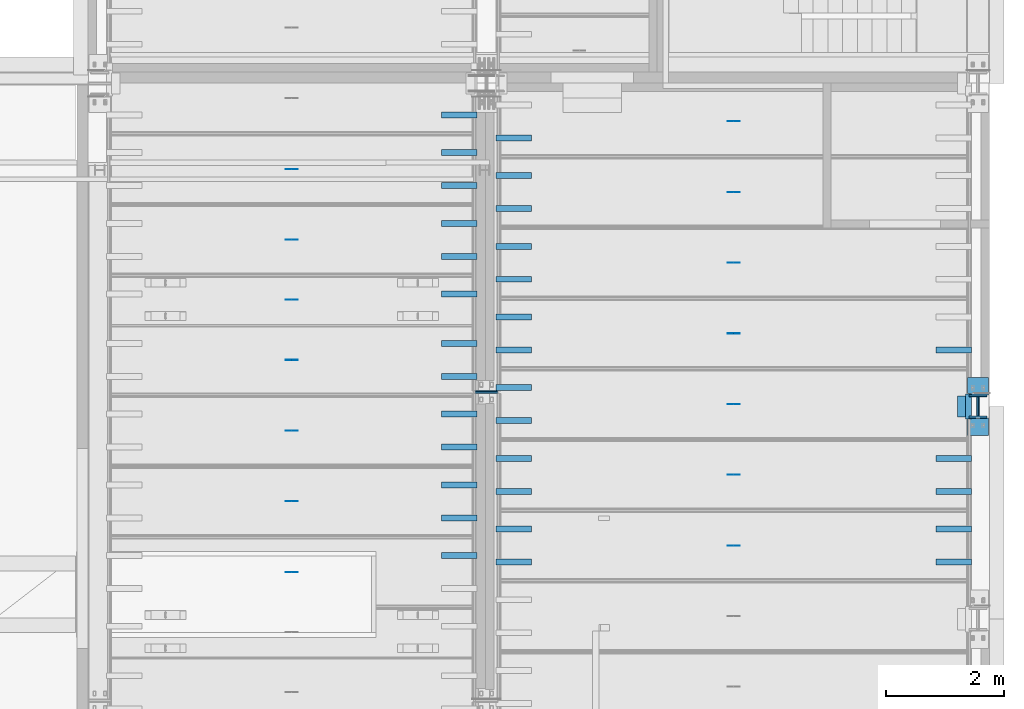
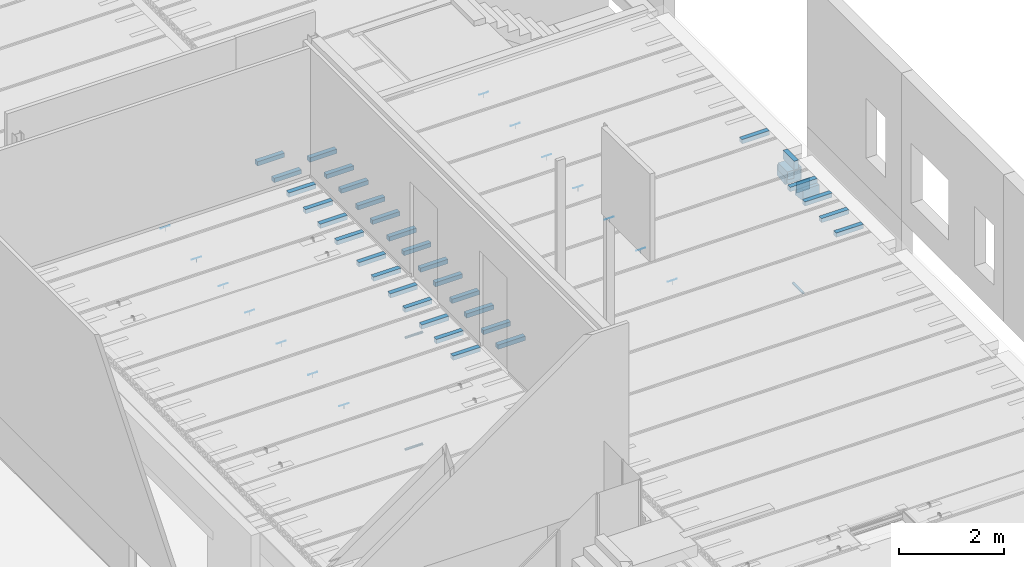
# One storey, part 21 of 230: 68 beams.
"""IFC4X3_ADD2 building model written with IfcOpenShell, lengths in millimetres."""

from ifc_helpers import new_model, entity, si_unit, direction, frame, frame_2d, origin_with_axes, place, context, subcontext, project, spatial, rectangle, hollow_circle, extrude, material, element, save


model = new_model("IFC4X3_ADD2")

# Units and contexts
model_context = context("Model", 3, precision=1e-05, world=origin_with_axes(), true_north=direction((0.0, 1.0)))
body_context = subcontext(model_context, "Body", "Model", "MODEL_VIEW")
ifc_project = project(units=[si_unit("LENGTHUNIT", "METRE", prefix="MILLI"), si_unit("AREAUNIT", "SQUARE_METRE"), si_unit("VOLUMEUNIT", "CUBIC_METRE"), si_unit("PLANEANGLEUNIT", "RADIAN"), si_unit("TIMEUNIT", "SECOND"), si_unit("MASSUNIT", "GRAM")], contexts=[model_context])

# Site, building, storey
site_placement = place(None, origin_with_axes())
site = spatial("IfcSite", under=ifc_project, at=site_placement, Name="Site", CompositionType="ELEMENT")
building_placement = place(site_placement, origin_with_axes())
building = spatial("IfcBuilding", under=site, at=building_placement, Name="IFC Building Story")
storey_placement = place(building_placement, origin_with_axes())
storey = spatial("IfcBuildingStorey", under=building, at=storey_placement, Name="ETAGE 00 (0)", Elevation=0.0)

# Beams
ifc_material_1 = material(Name="STEEL/Accessory_C50/60 64192")
for number, where, z_axis, x_axis, name in (
    (1, (48131.1886362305, 11975.0006109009, 3540.0), (1.0, 0.0, 0.0), (0.0, 0.0, 1.0), "BEK1"),
    (2, (48491.18863623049, 12665.0006109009, 3540.0), (-1.0, 0.0, 0.0), (0.0, 0.0, 1.0), "BEK1"),
):
    element("IfcBeam", number, at=place(storey_placement, frame(where, z_axis=z_axis, x_axis=x_axis)), inside=storey, material=ifc_material_1, Name=name, ObjectType="CORBEL300-300-260", context=body_context, shape_type="SweptSolid", body=[
        extrude(entity("IfcTrapeziumProfileDef", "AREA", None, entity("IfcAxis2Placement2D", entity("IfcCartesianPoint", [0.0, 5.95523630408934e-12]), entity("IfcDirection", [1.0, 0.0])), 300.0, 260.0, 300.0, 40.0), origin_with_axes(), (0.0, 0.0, 1.0), 359.9999999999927),
    ])
beam_1_placement = place(storey_placement, frame((48041.1886362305, 12500.0006109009, 3875.0), z_axis=(0.0, -1.0, 0.0), x_axis=(0.0, 0.0, 1.0)))
element("IfcBeam", 3, at=beam_1_placement, inside=storey, material=ifc_material_1, Name="BEK1", ObjectType="CORBEL200-150-180", context=body_context, shape_type="SweptSolid", body=[
    extrude(entity("IfcTrapeziumProfileDef", "AREA", None, entity("IfcAxis2Placement2D", entity("IfcCartesianPoint", [0.0, 5.95523630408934e-12]), entity("IfcDirection", [1.0, 0.0])), 200.0, 180.0, 150.0, 19.9999999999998), origin_with_axes(), (0.0, 0.0, 1.0), 360.0),
])
ifc_material_2 = material(Name="STEEL/Accessory_invisible")
beam_2_placement = place(storey_placement, frame((40731.189, 16880.0, 4150.0), z_axis=(-1.0, 0.0, 0.0), x_axis=(0.0, 1.0, 0.0)))
element("IfcBeam", 4, at=beam_2_placement, inside=storey, material=ifc_material_2, Name="ES7", ObjectType="100*100", context=body_context, shape_type="SweptSolid", body=[
    extrude(rectangle(XDim=100.0, YDim=99.99999999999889, at=frame_2d((0.0, 5.95523630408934e-12), x_axis=(1.0, 0.0))), origin_with_axes(), (0.0, 0.0, 1.0), 600.0),
])
ifc_material_3 = material(Name="STEEL/Accessory_invisible 261")
beam_3_placement = place(storey_placement, frame((44164.189, 17160.0, 4049.9999909), z_axis=(-1.0, 0.0, 0.0), x_axis=(0.0, 0.0, -1.0)))
element("IfcBeam", 5, at=beam_3_placement, inside=storey, material=ifc_material_3, Name="ES6", ObjectType="1*1 2", context=body_context, shape_type="SweptSolid", body=[
    extrude(rectangle(XDim=100.0, YDim=0.9999999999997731, at=frame_2d((0.0, 5.95523630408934e-12), x_axis=(1.0, 0.0))), origin_with_axes(), (0.0, 0.0, 1.0), 1.0),
])
beam_4_placement = place(storey_placement, frame((44263.689, 17160.0, 4100.0), z_axis=(-1.0, 0.0, 0.0), x_axis=(0.0, 1.0, 0.0)))
element("IfcBeam", 6, at=beam_4_placement, inside=storey, material=ifc_material_3, Name="ES31", ObjectType="1*1 3", context=body_context, shape_type="SweptSolid", body=[
    extrude(rectangle(XDim=0.9999999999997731, YDim=0.9999999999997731, at=frame_2d((0.0, 5.95523630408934e-12), x_axis=(1.0, 0.0))), origin_with_axes(), (0.0, 0.0, 1.0), 199.9999999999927),
])
for number, where, z_axis, x_axis, name in (
    (7, (40731.189, 16240.0, 4150.0), (-1.0, 0.0, 0.0), (0.0, 1.0, 0.0), "ES7"),
    (8, (40731.189, 15680.0, 4150.0), (-1.0, 0.0, 0.0), (0.0, 1.0, 0.0), "ES7"),
):
    element("IfcBeam", number, at=place(storey_placement, frame(where, z_axis=z_axis, x_axis=x_axis)), inside=storey, material=ifc_material_2, Name=name, ObjectType="100*100", context=body_context, shape_type="SweptSolid", body=[
        extrude(rectangle(XDim=100.0, YDim=99.99999999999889, at=frame_2d((0.0, 5.95523630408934e-12), x_axis=(1.0, 0.0))), origin_with_axes(), (0.0, 0.0, 1.0), 600.0),
    ])
beam_5_placement = place(storey_placement, frame((44164.189, 15960.0, 4049.9999909), z_axis=(-1.0, 0.0, 0.0), x_axis=(0.0, 0.0, -1.0)))
element("IfcBeam", 9, at=beam_5_placement, inside=storey, material=ifc_material_3, Name="ES6", ObjectType="1*1 2", context=body_context, shape_type="SweptSolid", body=[
    extrude(rectangle(XDim=100.0, YDim=0.9999999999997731, at=frame_2d((0.0, 5.95523630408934e-12), x_axis=(1.0, 0.0))), origin_with_axes(), (0.0, 0.0, 1.0), 1.0),
])
beam_6_placement = place(storey_placement, frame((44263.689, 15960.0, 4100.0), z_axis=(-1.0, 0.0, 0.0), x_axis=(0.0, 1.0, 0.0)))
element("IfcBeam", 10, at=beam_6_placement, inside=storey, material=ifc_material_3, Name="ES31", ObjectType="1*1 3", context=body_context, shape_type="SweptSolid", body=[
    extrude(rectangle(XDim=0.9999999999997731, YDim=0.9999999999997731, at=frame_2d((0.0, 5.95523630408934e-12), x_axis=(1.0, 0.0))), origin_with_axes(), (0.0, 0.0, 1.0), 199.9999999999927),
])
for number, where, z_axis, x_axis, name in (
    (11, (40731.189, 15040.0, 4150.0), (-1.0, 0.0, 0.0), (0.0, 1.0, 0.0), "ES7"),
    (12, (40731.189, 14480.0, 4150.0), (-1.0, 0.0, 0.0), (0.0, 1.0, 0.0), "ES7"),
):
    element("IfcBeam", number, at=place(storey_placement, frame(where, z_axis=z_axis, x_axis=x_axis)), inside=storey, material=ifc_material_2, Name=name, ObjectType="100*100", context=body_context, shape_type="SweptSolid", body=[
        extrude(rectangle(XDim=100.0, YDim=99.99999999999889, at=frame_2d((0.0, 5.95523630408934e-12), x_axis=(1.0, 0.0))), origin_with_axes(), (0.0, 0.0, 1.0), 600.0),
    ])
beam_7_placement = place(storey_placement, frame((44164.189, 14760.0, 4049.9999909), z_axis=(-1.0, 0.0, 0.0), x_axis=(0.0, 0.0, -1.0)))
element("IfcBeam", 13, at=beam_7_placement, inside=storey, material=ifc_material_3, Name="ES6", ObjectType="1*1 2", context=body_context, shape_type="SweptSolid", body=[
    extrude(rectangle(XDim=100.0, YDim=0.9999999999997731, at=frame_2d((0.0, 5.95523630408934e-12), x_axis=(1.0, 0.0))), origin_with_axes(), (0.0, 0.0, 1.0), 1.0),
])
beam_8_placement = place(storey_placement, frame((44263.689, 14760.0, 4100.0), z_axis=(-1.0, 0.0, 0.0), x_axis=(0.0, 1.0, 0.0)))
element("IfcBeam", 14, at=beam_8_placement, inside=storey, material=ifc_material_3, Name="ES31", ObjectType="1*1 3", context=body_context, shape_type="SweptSolid", body=[
    extrude(rectangle(XDim=0.9999999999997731, YDim=0.9999999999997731, at=frame_2d((0.0, 5.95523630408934e-12), x_axis=(1.0, 0.0))), origin_with_axes(), (0.0, 0.0, 1.0), 199.9999999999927),
])
for number, where, z_axis, x_axis, name in (
    (15, (40731.189, 13840.0, 4150.0), (-1.0, 0.0, 0.0), (0.0, 1.0, 0.0), "ES7"),
    (16, (40731.189, 13280.0, 4150.0), (-1.0, 0.0, 0.0), (0.0, 1.0, 0.0), "ES7"),
    (17, (48196.18900000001, 13280.0, 4150.0), (-1.0, 0.0, 0.0), (0.0, -1.0, 0.0), "ES7"),
):
    element("IfcBeam", number, at=place(storey_placement, frame(where, z_axis=z_axis, x_axis=x_axis)), inside=storey, material=ifc_material_2, Name=name, ObjectType="100*100", context=body_context, shape_type="SweptSolid", body=[
        extrude(rectangle(XDim=100.0, YDim=99.99999999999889, at=frame_2d((0.0, 5.95523630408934e-12), x_axis=(1.0, 0.0))), origin_with_axes(), (0.0, 0.0, 1.0), 600.0),
    ])
beam_9_placement = place(storey_placement, frame((44164.189, 13560.0, 4049.9999909), z_axis=(-1.0, 0.0, 0.0), x_axis=(0.0, 0.0, -1.0)))
element("IfcBeam", 18, at=beam_9_placement, inside=storey, material=ifc_material_3, Name="ES6", ObjectType="1*1 2", context=body_context, shape_type="SweptSolid", body=[
    extrude(rectangle(XDim=100.0, YDim=0.9999999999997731, at=frame_2d((0.0, 5.95523630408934e-12), x_axis=(1.0, 0.0))), origin_with_axes(), (0.0, 0.0, 1.0), 1.0),
])
beam_10_placement = place(storey_placement, frame((44263.689, 13560.0, 4100.0), z_axis=(-1.0, 0.0, 0.0), x_axis=(0.0, 1.0, 0.0)))
element("IfcBeam", 19, at=beam_10_placement, inside=storey, material=ifc_material_3, Name="ES31", ObjectType="1*1 3", context=body_context, shape_type="SweptSolid", body=[
    extrude(rectangle(XDim=0.9999999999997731, YDim=0.9999999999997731, at=frame_2d((0.0, 5.95523630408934e-12), x_axis=(1.0, 0.0))), origin_with_axes(), (0.0, 0.0, 1.0), 199.9999999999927),
])
for number, where, z_axis, x_axis, name in (
    (20, (40731.189, 11440.0, 4150.0), (-1.0, 0.0, 0.0), (0.0, 1.0, 0.0), "ES7"),
    (21, (40731.189, 10880.0, 4150.0), (-1.0, 0.0, 0.0), (0.0, 1.0, 0.0), "ES7"),
    (22, (48196.18900000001, 11440.0, 4150.0), (-1.0, 0.0, 0.0), (0.0, -1.0, 0.0), "ES7"),
    (23, (48196.18900000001, 10880.0, 4150.0), (-1.0, 0.0, 0.0), (0.0, -1.0, 0.0), "ES7"),
):
    element("IfcBeam", number, at=place(storey_placement, frame(where, z_axis=z_axis, x_axis=x_axis)), inside=storey, material=ifc_material_2, Name=name, ObjectType="100*100", context=body_context, shape_type="SweptSolid", body=[
        extrude(rectangle(XDim=100.0, YDim=99.99999999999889, at=frame_2d((0.0, 5.95523630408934e-12), x_axis=(1.0, 0.0))), origin_with_axes(), (0.0, 0.0, 1.0), 600.0),
    ])
beam_11_placement = place(storey_placement, frame((44164.189, 11160.0, 4049.9999909), z_axis=(-1.0, 0.0, 0.0), x_axis=(0.0, 0.0, -1.0)))
element("IfcBeam", 24, at=beam_11_placement, inside=storey, material=ifc_material_3, Name="ES6", ObjectType="1*1 2", context=body_context, shape_type="SweptSolid", body=[
    extrude(rectangle(XDim=100.0, YDim=0.9999999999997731, at=frame_2d((0.0, 5.95523630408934e-12), x_axis=(1.0, 0.0))), origin_with_axes(), (0.0, 0.0, 1.0), 1.0),
])
beam_12_placement = place(storey_placement, frame((44263.689, 11160.0, 4100.0), z_axis=(-1.0, 0.0, 0.0), x_axis=(0.0, 1.0, 0.0)))
element("IfcBeam", 25, at=beam_12_placement, inside=storey, material=ifc_material_3, Name="ES31", ObjectType="1*1 3", context=body_context, shape_type="SweptSolid", body=[
    extrude(rectangle(XDim=0.9999999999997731, YDim=0.9999999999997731, at=frame_2d((0.0, 5.95523630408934e-12), x_axis=(1.0, 0.0))), origin_with_axes(), (0.0, 0.0, 1.0), 199.9999999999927),
])
for number, where, z_axis, x_axis, name in (
    (26, (40731.189, 10240.0, 4150.0), (-1.0, 0.0, 0.0), (0.0, 1.0, 0.0), "ES7"),
    (27, (40731.189, 9680.0, 4150.0), (-1.0, 0.0, 0.0), (0.0, 1.0, 0.0), "ES7"),
    (28, (48196.18900000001, 10240.0, 4150.0), (-1.0, 0.0, 0.0), (0.0, -1.0, 0.0), "ES7"),
    (29, (48196.18900000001, 9680.0, 4150.0), (-1.0, 0.0, 0.0), (0.0, -1.0, 0.0), "ES7"),
):
    element("IfcBeam", number, at=place(storey_placement, frame(where, z_axis=z_axis, x_axis=x_axis)), inside=storey, material=ifc_material_2, Name=name, ObjectType="100*100", context=body_context, shape_type="SweptSolid", body=[
        extrude(rectangle(XDim=100.0, YDim=99.99999999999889, at=frame_2d((0.0, 5.95523630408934e-12), x_axis=(1.0, 0.0))), origin_with_axes(), (0.0, 0.0, 1.0), 600.0),
    ])
beam_13_placement = place(storey_placement, frame((44164.189, 9960.0, 4049.9999909), z_axis=(-1.0, 0.0, 0.0), x_axis=(0.0, 0.0, -1.0)))
element("IfcBeam", 30, at=beam_13_placement, inside=storey, material=ifc_material_3, Name="ES6", ObjectType="1*1 2", context=body_context, shape_type="SweptSolid", body=[
    extrude(rectangle(XDim=100.0, YDim=0.9999999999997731, at=frame_2d((0.0, 5.95523630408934e-12), x_axis=(1.0, 0.0))), origin_with_axes(), (0.0, 0.0, 1.0), 1.0),
])
beam_14_placement = place(storey_placement, frame((44263.689, 9960.0, 4100.0), z_axis=(-1.0, 0.0, 0.0), x_axis=(0.0, 1.0, 0.0)))
element("IfcBeam", 31, at=beam_14_placement, inside=storey, material=ifc_material_3, Name="ES31", ObjectType="1*1 3", context=body_context, shape_type="SweptSolid", body=[
    extrude(rectangle(XDim=0.9999999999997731, YDim=0.9999999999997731, at=frame_2d((0.0, 5.95523630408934e-12), x_axis=(1.0, 0.0))), origin_with_axes(), (0.0, 0.0, 1.0), 199.9999999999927),
])
for number, where, z_axis, x_axis, name in (
    (32, (40731.189, 12640.0, 4150.0), (-1.0, 0.0, 0.0), (0.0, 1.0, 0.0), "ES7"),
    (33, (40731.189, 12080.0, 4150.0), (-1.0, 0.0, 0.0), (0.0, 1.0, 0.0), "ES7"),
):
    element("IfcBeam", number, at=place(storey_placement, frame(where, z_axis=z_axis, x_axis=x_axis)), inside=storey, material=ifc_material_2, Name=name, ObjectType="100*100", context=body_context, shape_type="SweptSolid", body=[
        extrude(rectangle(XDim=100.0, YDim=99.99999999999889, at=frame_2d((0.0, 5.95523630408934e-12), x_axis=(1.0, 0.0))), origin_with_axes(), (0.0, 0.0, 1.0), 600.0),
    ])
beam_15_placement = place(storey_placement, frame((44164.189, 12360.0, 4049.9999909), z_axis=(-1.0, 0.0, 0.0), x_axis=(0.0, 0.0, -1.0)))
element("IfcBeam", 34, at=beam_15_placement, inside=storey, material=ifc_material_3, Name="ES6", ObjectType="1*1 2", context=body_context, shape_type="SweptSolid", body=[
    extrude(rectangle(XDim=100.0, YDim=0.9999999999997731, at=frame_2d((0.0, 5.95523630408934e-12), x_axis=(1.0, 0.0))), origin_with_axes(), (0.0, 0.0, 1.0), 1.0),
])
beam_16_placement = place(storey_placement, frame((44263.689, 12360.0, 4100.0), z_axis=(-1.0, 0.0, 0.0), x_axis=(0.0, 1.0, 0.0)))
element("IfcBeam", 35, at=beam_16_placement, inside=storey, material=ifc_material_3, Name="ES31", ObjectType="1*1 3", context=body_context, shape_type="SweptSolid", body=[
    extrude(rectangle(XDim=0.9999999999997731, YDim=0.9999999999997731, at=frame_2d((0.0, 5.95523630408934e-12), x_axis=(1.0, 0.0))), origin_with_axes(), (0.0, 0.0, 1.0), 199.9999999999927),
])
beam_17_placement = place(storey_placement, frame((48096.18900000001, 12320.0, 4100.0), z_axis=(1.0, 0.0, 0.0), x_axis=(0.0, 0.0, -1.0)))
element("IfcBeam", 36, at=beam_17_placement, inside=storey, material=ifc_material_2, Name="ES32", ObjectType="200*430", context=body_context, shape_type="SweptSolid", body=[
    extrude(rectangle(XDim=200.0, YDim=430.000000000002, at=frame_2d((0.0, 5.95523630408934e-12), x_axis=(1.0, 0.0))), origin_with_axes(), (0.0, 0.0, 1.0), 100.0),
])
ifc_material_4 = material(Name="STEEL/Accessory_PVC")
for number, where, z_axis, x_axis, name in (
    (37, (39774.1889999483, 12564.838, 110.0), (1.0, 0.0, 0.0), (0.0, 0.0, -1.0), "PS13"),
    (38, (39774.1890000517, 12564.838, 2720.0), (1.0, 0.0, 0.0), (0.0, 0.0, -1.0), "PS13"),
):
    element("IfcBeam", number, at=place(storey_placement, frame(where, z_axis=z_axis, x_axis=x_axis)), inside=storey, material=ifc_material_4, Name=name, ObjectType="O56*3", context=body_context, shape_type="SweptSolid", body=[
        extrude(hollow_circle(Radius=28.0, WallThickness=3.0, at=frame_2d((0.0, 5.95523630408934e-12), x_axis=(1.0, 0.0))), origin_with_axes(), (0.0, 0.0, 1.0), 384.0),
    ])
for number, where, z_axis, x_axis, name in (
    (39, (39801.1890000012, 17270.0009155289, 4150.0), (-1.0, 0.0, 0.0), (0.0, -1.0, 0.0), "ES7"),
    (40, (39801.189, 16630.0009155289, 4150.0), (-1.0, 0.0, 0.0), (0.0, -1.0, 0.0), "ES7"),
    (41, (39801.189, 16070.0009155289, 4150.0), (-1.0, 0.0, 0.0), (0.0, -1.0, 0.0), "ES7"),
):
    element("IfcBeam", number, at=place(storey_placement, frame(where, z_axis=z_axis, x_axis=x_axis)), inside=storey, material=ifc_material_2, Name=name, ObjectType="100*100", context=body_context, shape_type="SweptSolid", body=[
        extrude(rectangle(XDim=100.0, YDim=99.99999999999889, at=frame_2d((0.0, 5.95523630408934e-12), x_axis=(1.0, 0.0))), origin_with_axes(), (0.0, 0.0, 1.0), 600.0),
    ])
beam_18_placement = place(storey_placement, frame((36659.189, 16350.0009155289, 4049.9999909), z_axis=(-1.0, 0.0, 0.0), x_axis=(0.0, 0.0, -1.0)))
element("IfcBeam", 42, at=beam_18_placement, inside=storey, material=ifc_material_3, Name="ES6", ObjectType="1*1 2", context=body_context, shape_type="SweptSolid", body=[
    extrude(rectangle(XDim=100.0, YDim=0.9999999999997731, at=frame_2d((0.0, 5.95523630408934e-12), x_axis=(1.0, 0.0))), origin_with_axes(), (0.0, 0.0, 1.0), 1.0),
])
beam_19_placement = place(storey_placement, frame((36758.689, 16350.0009155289, 4100.0), z_axis=(-1.0, 0.0, 0.0), x_axis=(0.0, 1.0, 0.0)))
element("IfcBeam", 43, at=beam_19_placement, inside=storey, material=ifc_material_3, Name="ES31", ObjectType="1*1 3", context=body_context, shape_type="SweptSolid", body=[
    extrude(rectangle(XDim=0.9999999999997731, YDim=0.9999999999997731, at=frame_2d((0.0, 5.95523630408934e-12), x_axis=(1.0, 0.0))), origin_with_axes(), (0.0, 0.0, 1.0), 200.0),
])
for number, where, z_axis, x_axis, name in (
    (44, (39801.189, 15430.0009155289, 4150.0), (-1.0, 0.0, 0.0), (0.0, -1.0, 0.0), "ES7"),
    (45, (39801.189, 14870.0009155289, 4150.0), (-1.0, 0.0, 0.0), (0.0, -1.0, 0.0), "ES7"),
):
    element("IfcBeam", number, at=place(storey_placement, frame(where, z_axis=z_axis, x_axis=x_axis)), inside=storey, material=ifc_material_2, Name=name, ObjectType="100*100", context=body_context, shape_type="SweptSolid", body=[
        extrude(rectangle(XDim=100.0, YDim=99.99999999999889, at=frame_2d((0.0, 5.95523630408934e-12), x_axis=(1.0, 0.0))), origin_with_axes(), (0.0, 0.0, 1.0), 600.0),
    ])
beam_20_placement = place(storey_placement, frame((36659.189, 15150.0009155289, 4049.9999909), z_axis=(-1.0, 0.0, 0.0), x_axis=(0.0, 0.0, -1.0)))
element("IfcBeam", 46, at=beam_20_placement, inside=storey, material=ifc_material_3, Name="ES6", ObjectType="1*1 2", context=body_context, shape_type="SweptSolid", body=[
    extrude(rectangle(XDim=100.0, YDim=0.9999999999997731, at=frame_2d((0.0, 5.95523630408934e-12), x_axis=(1.0, 0.0))), origin_with_axes(), (0.0, 0.0, 1.0), 1.0),
])
beam_21_placement = place(storey_placement, frame((36758.689, 15150.0009155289, 4100.0), z_axis=(-1.0, 0.0, 0.0), x_axis=(0.0, 1.0, 0.0)))
element("IfcBeam", 47, at=beam_21_placement, inside=storey, material=ifc_material_3, Name="ES31", ObjectType="1*1 3", context=body_context, shape_type="SweptSolid", body=[
    extrude(rectangle(XDim=0.9999999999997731, YDim=0.9999999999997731, at=frame_2d((0.0, 5.95523630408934e-12), x_axis=(1.0, 0.0))), origin_with_axes(), (0.0, 0.0, 1.0), 200.0),
])
for number, where, z_axis, x_axis, name in (
    (48, (39801.189, 13390.0009155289, 4150.0), (-1.0, 0.0, 0.0), (0.0, -1.0, 0.0), "ES7"),
    (49, (39801.189, 12830.0009155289, 4150.0), (-1.0, 0.0, 0.0), (0.0, -1.0, 0.0), "ES7"),
):
    element("IfcBeam", number, at=place(storey_placement, frame(where, z_axis=z_axis, x_axis=x_axis)), inside=storey, material=ifc_material_2, Name=name, ObjectType="100*100", context=body_context, shape_type="SweptSolid", body=[
        extrude(rectangle(XDim=100.0, YDim=99.99999999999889, at=frame_2d((0.0, 5.95523630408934e-12), x_axis=(1.0, 0.0))), origin_with_axes(), (0.0, 0.0, 1.0), 600.0),
    ])
beam_22_placement = place(storey_placement, frame((36659.189, 13110.0009155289, 4049.9999909), z_axis=(-1.0, 0.0, 0.0), x_axis=(0.0, 0.0, -1.0)))
element("IfcBeam", 50, at=beam_22_placement, inside=storey, material=ifc_material_3, Name="ES6", ObjectType="1*1 2", context=body_context, shape_type="SweptSolid", body=[
    extrude(rectangle(XDim=100.0, YDim=0.9999999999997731, at=frame_2d((0.0, 5.95523630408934e-12), x_axis=(1.0, 0.0))), origin_with_axes(), (0.0, 0.0, 1.0), 1.0),
])
beam_23_placement = place(storey_placement, frame((36758.689, 13110.0009155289, 4100.0), z_axis=(-1.0, 0.0, 0.0), x_axis=(0.0, 1.0, 0.0)))
element("IfcBeam", 51, at=beam_23_placement, inside=storey, material=ifc_material_3, Name="ES31", ObjectType="1*1 3", context=body_context, shape_type="SweptSolid", body=[
    extrude(rectangle(XDim=0.9999999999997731, YDim=0.9999999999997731, at=frame_2d((0.0, 5.95523630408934e-12), x_axis=(1.0, 0.0))), origin_with_axes(), (0.0, 0.0, 1.0), 200.0),
])
for number, where, z_axis, x_axis, name in (
    (52, (39801.189, 12190.0009155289, 4150.0), (-1.0, 0.0, 0.0), (0.0, -1.0, 0.0), "ES7"),
    (53, (39801.189, 11630.0009155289, 4150.0), (-1.0, 0.0, 0.0), (0.0, -1.0, 0.0), "ES7"),
):
    element("IfcBeam", number, at=place(storey_placement, frame(where, z_axis=z_axis, x_axis=x_axis)), inside=storey, material=ifc_material_2, Name=name, ObjectType="100*100", context=body_context, shape_type="SweptSolid", body=[
        extrude(rectangle(XDim=100.0, YDim=99.99999999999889, at=frame_2d((0.0, 5.95523630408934e-12), x_axis=(1.0, 0.0))), origin_with_axes(), (0.0, 0.0, 1.0), 600.0),
    ])
beam_24_placement = place(storey_placement, frame((36659.189, 11910.0009155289, 4049.9999909), z_axis=(-1.0, 0.0, 0.0), x_axis=(0.0, 0.0, -1.0)))
element("IfcBeam", 54, at=beam_24_placement, inside=storey, material=ifc_material_3, Name="ES6", ObjectType="1*1 2", context=body_context, shape_type="SweptSolid", body=[
    extrude(rectangle(XDim=100.0, YDim=0.9999999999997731, at=frame_2d((0.0, 5.95523630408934e-12), x_axis=(1.0, 0.0))), origin_with_axes(), (0.0, 0.0, 1.0), 1.0),
])
beam_25_placement = place(storey_placement, frame((36758.689, 11910.0009155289, 4100.0), z_axis=(-1.0, 0.0, 0.0), x_axis=(0.0, 1.0, 0.0)))
element("IfcBeam", 55, at=beam_25_placement, inside=storey, material=ifc_material_3, Name="ES31", ObjectType="1*1 3", context=body_context, shape_type="SweptSolid", body=[
    extrude(rectangle(XDim=0.9999999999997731, YDim=0.9999999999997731, at=frame_2d((0.0, 5.95523630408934e-12), x_axis=(1.0, 0.0))), origin_with_axes(), (0.0, 0.0, 1.0), 200.0),
])
for number, where, z_axis, x_axis, name in (
    (56, (39801.189, 10990.0009155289, 4150.0), (-1.0, 0.0, 0.0), (0.0, -1.0, 0.0), "ES7"),
    (57, (39801.189, 10430.0009155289, 4150.0), (-1.0, 0.0, 0.0), (0.0, -1.0, 0.0), "ES7"),
):
    element("IfcBeam", number, at=place(storey_placement, frame(where, z_axis=z_axis, x_axis=x_axis)), inside=storey, material=ifc_material_2, Name=name, ObjectType="100*100", context=body_context, shape_type="SweptSolid", body=[
        extrude(rectangle(XDim=100.0, YDim=99.99999999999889, at=frame_2d((0.0, 5.95523630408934e-12), x_axis=(1.0, 0.0))), origin_with_axes(), (0.0, 0.0, 1.0), 600.0),
    ])
beam_26_placement = place(storey_placement, frame((36659.189, 10710.0009155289, 4049.9999909), z_axis=(-1.0, 0.0, 0.0), x_axis=(0.0, 0.0, -1.0)))
element("IfcBeam", 58, at=beam_26_placement, inside=storey, material=ifc_material_3, Name="ES6", ObjectType="1*1 2", context=body_context, shape_type="SweptSolid", body=[
    extrude(rectangle(XDim=100.0, YDim=0.9999999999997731, at=frame_2d((0.0, 5.95523630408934e-12), x_axis=(1.0, 0.0))), origin_with_axes(), (0.0, 0.0, 1.0), 1.0),
])
beam_27_placement = place(storey_placement, frame((36758.689, 10710.0009155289, 4100.0), z_axis=(-1.0, 0.0, 0.0), x_axis=(0.0, 1.0, 0.0)))
element("IfcBeam", 59, at=beam_27_placement, inside=storey, material=ifc_material_3, Name="ES31", ObjectType="1*1 3", context=body_context, shape_type="SweptSolid", body=[
    extrude(rectangle(XDim=0.9999999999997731, YDim=0.9999999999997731, at=frame_2d((0.0, 5.95523630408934e-12), x_axis=(1.0, 0.0))), origin_with_axes(), (0.0, 0.0, 1.0), 200.0),
])
beam_28_placement = place(storey_placement, frame((39801.189, 9790.000915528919, 4150.0), z_axis=(-1.0, 0.0, 0.0), x_axis=(0.0, -1.0, 0.0)))
element("IfcBeam", 60, at=beam_28_placement, inside=storey, material=ifc_material_2, Name="ES7", ObjectType="100*100", context=body_context, shape_type="SweptSolid", body=[
    extrude(rectangle(XDim=100.0, YDim=99.99999999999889, at=frame_2d((0.0, 5.95523630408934e-12), x_axis=(1.0, 0.0))), origin_with_axes(), (0.0, 0.0, 1.0), 600.0),
])
beam_29_placement = place(storey_placement, frame((36659.189, 9510.000915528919, 4049.9999909), z_axis=(-1.0, 0.0, 0.0), x_axis=(0.0, 0.0, -1.0)))
element("IfcBeam", 61, at=beam_29_placement, inside=storey, material=ifc_material_3, Name="ES6", ObjectType="1*1 2", context=body_context, shape_type="SweptSolid", body=[
    extrude(rectangle(XDim=100.0, YDim=0.9999999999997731, at=frame_2d((0.0, 5.95523630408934e-12), x_axis=(1.0, 0.0))), origin_with_axes(), (0.0, 0.0, 1.0), 1.0),
])
beam_30_placement = place(storey_placement, frame((36758.689, 9510.000915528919, 4100.0), z_axis=(-1.0, 0.0, 0.0), x_axis=(0.0, 1.0, 0.0)))
element("IfcBeam", 62, at=beam_30_placement, inside=storey, material=ifc_material_3, Name="ES31", ObjectType="1*1 3", context=body_context, shape_type="SweptSolid", body=[
    extrude(rectangle(XDim=0.9999999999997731, YDim=0.9999999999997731, at=frame_2d((0.0, 5.95523630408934e-12), x_axis=(1.0, 0.0))), origin_with_axes(), (0.0, 0.0, 1.0), 200.0),
])
beam_31_placement = place(storey_placement, frame((39801.189, 14230.0008970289, 4150.0), z_axis=(-1.0, 0.0, 0.0), x_axis=(0.0, -1.0, 0.0)))
element("IfcBeam", 63, at=beam_31_placement, inside=storey, material=ifc_material_2, Name="ES7", ObjectType="100*100", context=body_context, shape_type="SweptSolid", body=[
    extrude(rectangle(XDim=100.0, YDim=99.99999999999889, at=frame_2d((0.0, 5.95523630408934e-12), x_axis=(1.0, 0.0))), origin_with_axes(), (0.0, 0.0, 1.0), 600.0),
])
beam_32_placement = place(storey_placement, frame((36659.189, 14130.0009062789, 4049.9999909), z_axis=(-1.0, 0.0, 0.0), x_axis=(0.0, 0.0, -1.0)))
element("IfcBeam", 64, at=beam_32_placement, inside=storey, material=ifc_material_3, Name="ES6", ObjectType="1*1 2", context=body_context, shape_type="SweptSolid", body=[
    extrude(rectangle(XDim=100.0, YDim=0.9999999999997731, at=frame_2d((0.0, 5.95523630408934e-12), x_axis=(1.0, 0.0))), origin_with_axes(), (0.0, 0.0, 1.0), 1.0),
])
beam_33_placement = place(storey_placement, frame((36758.689, 14130.0009062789, 4100.0), z_axis=(-1.0, 0.0, 0.0), x_axis=(0.0, 1.0, 0.0)))
element("IfcBeam", 65, at=beam_33_placement, inside=storey, material=ifc_material_3, Name="ES31", ObjectType="1*1 3", context=body_context, shape_type="SweptSolid", body=[
    extrude(rectangle(XDim=0.9999999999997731, YDim=0.9999999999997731, at=frame_2d((0.0, 5.95523630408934e-12), x_axis=(1.0, 0.0))), origin_with_axes(), (0.0, 0.0, 1.0), 200.0),
])
ifc_material_5 = material(Name="STEEL/Accessory_EPS")
for number, where, z_axis, x_axis, name in (
    (66, (48461.1886362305, 12140.0006109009, 3544.99999999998), (-1.0, 0.0, 0.0), (0.0, 0.0, 1.0), "POL4"),
    (67, (48461.1886362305, 12500.0006109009, 3544.99999999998), (-1.0, 0.0, 0.0), (0.0, 0.0, 1.0), "POL4"),
):
    element("IfcBeam", number, at=place(storey_placement, frame(where, z_axis=z_axis, x_axis=x_axis)), inside=storey, material=ifc_material_5, Name=name, ObjectType="30*300", context=body_context, shape_type="SweptSolid", body=[
        extrude(rectangle(XDim=250.0, YDim=30.0000000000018, at=frame_2d((0.0, 5.95523630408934e-12), x_axis=(1.0, 0.0))), origin_with_axes(), (0.0, 0.0, 1.0), 300.0),
    ])
beam_34_placement = place(storey_placement, frame((48311.1886362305, 12128.0006109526, 1040.0), z_axis=(0.0, 1.0, 0.0), x_axis=(1.0, 0.0, 0.0)))
element("IfcBeam", 68, at=beam_34_placement, inside=storey, material=ifc_material_4, Name="PS13", ObjectType="O56*3", context=body_context, shape_type="SweptSolid", body=[
    extrude(hollow_circle(Radius=28.0, WallThickness=3.0, at=frame_2d((0.0, 5.95523630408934e-12), x_axis=(1.0, 0.0))), origin_with_axes(), (0.0, 0.0, 1.0), 383.9999999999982),
])

save(model, "model.ifc")
